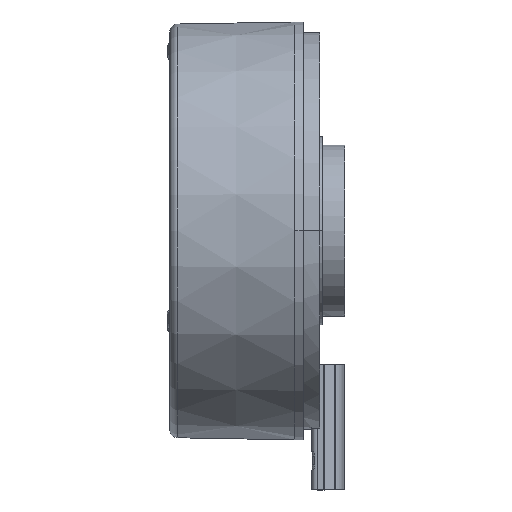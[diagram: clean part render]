
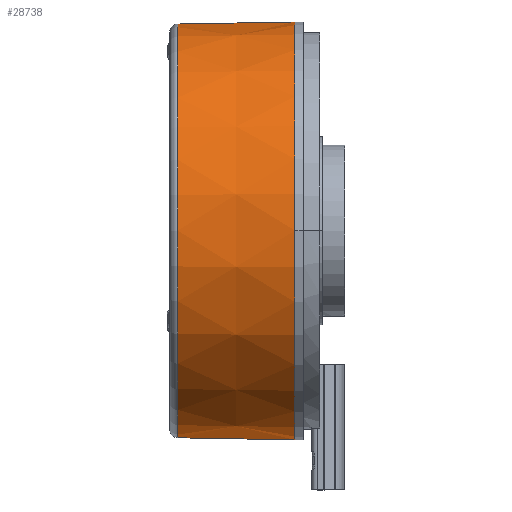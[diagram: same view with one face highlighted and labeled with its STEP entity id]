
A CAD part, top view. The second image highlights one B-rep face of the part: STEP entity #28738.
In plain terms, the highlighted conical face has half-angle 1 degrees and reference radius 50 mm.
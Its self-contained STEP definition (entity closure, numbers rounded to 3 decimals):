
#672 = VECTOR ( 'NONE', #6150, 1000. ) ;
#1029 = ORIENTED_EDGE ( 'NONE', *, *, #1614, .T. ) ;
#1075 = CARTESIAN_POINT ( 'NONE',  ( 43.227, 46.833, 0. ) ) ;
#1329 = DIRECTION ( 'NONE',  ( -1., 0., 0. ) ) ;
#1443 = LINE ( 'NONE', #1075, #672 ) ;
#1614 = EDGE_CURVE ( 'NONE', #12974, #24030, #20076, .T. ) ;
#6150 = DIRECTION ( 'NONE',  ( 1., 0.017, 0. ) ) ;
#6491 = EDGE_LOOP ( 'NONE', ( #23067, #1029, #9007, #31734 ) ) ;
#6647 = CONICAL_SURFACE ( 'NONE', #23305, 50., 0.017 ) ;
#8062 = AXIS2_PLACEMENT_3D ( 'NONE', #12292, #12646, #12009 ) ;
#9007 = ORIENTED_EDGE ( 'NONE', *, *, #28549, .T. ) ;
#9684 = CARTESIAN_POINT ( 'NONE',  ( 43.227, -53.167, 0. ) ) ;
#11054 = CARTESIAN_POINT ( 'NONE',  ( 15.192, 46.344, 0. ) ) ;
#12009 = DIRECTION ( 'NONE',  ( 0., 1., 0. ) ) ;
#12292 = CARTESIAN_POINT ( 'NONE',  ( 15.192, -3.167, 0. ) ) ;
#12646 = DIRECTION ( 'NONE',  ( 1., 0., 0. ) ) ;
#12974 = VERTEX_POINT ( 'NONE', #11054 ) ;
#14237 = VERTEX_POINT ( 'NONE', #14931 ) ;
#14931 = CARTESIAN_POINT ( 'NONE',  ( 43.227, 46.833, 0. ) ) ;
#15427 = DIRECTION ( 'NONE',  ( 0., -1., 0. ) ) ;
#16027 = CARTESIAN_POINT ( 'NONE',  ( 43.227, -3.167, 0. ) ) ;
#16165 = CIRCLE ( 'NONE', #19972, 50. ) ;
#16212 = FACE_OUTER_BOUND ( 'NONE', #6491, .T. ) ;
#17625 = EDGE_CURVE ( 'NONE', #12974, #14237, #1443, .T. ) ;
#18508 = DIRECTION ( 'NONE',  ( 0., 1., 0. ) ) ;
#19972 = AXIS2_PLACEMENT_3D ( 'NONE', #16027, #1329, #18508 ) ;
#20076 = CIRCLE ( 'NONE', #8062, 49.511 ) ;
#20140 = CARTESIAN_POINT ( 'NONE',  ( 15.192, -52.677, 0. ) ) ;
#20296 = CARTESIAN_POINT ( 'NONE',  ( 43.227, -3.167, 0. ) ) ;
#21563 = VECTOR ( 'NONE', #24334, 1000. ) ;
#22707 = DIRECTION ( 'NONE',  ( 1., 0., 0. ) ) ;
#23067 = ORIENTED_EDGE ( 'NONE', *, *, #17625, .F. ) ;
#23305 = AXIS2_PLACEMENT_3D ( 'NONE', #20296, #22707, #15427 ) ;
#24030 = VERTEX_POINT ( 'NONE', #20140 ) ;
#24334 = DIRECTION ( 'NONE',  ( 1., -0.017, 0. ) ) ;
#28059 = LINE ( 'NONE', #9684, #21563 ) ;
#28186 = VERTEX_POINT ( 'NONE', #30374 ) ;
#28549 = EDGE_CURVE ( 'NONE', #24030, #28186, #28059, .T. ) ;
#28738 = ADVANCED_FACE ( 'NONE', ( #16212 ), #6647, .T. ) ;
#30374 = CARTESIAN_POINT ( 'NONE',  ( 43.227, -53.167, 0. ) ) ;
#31034 = EDGE_CURVE ( 'NONE', #28186, #14237, #16165, .T. ) ;
#31734 = ORIENTED_EDGE ( 'NONE', *, *, #31034, .T. ) ;
